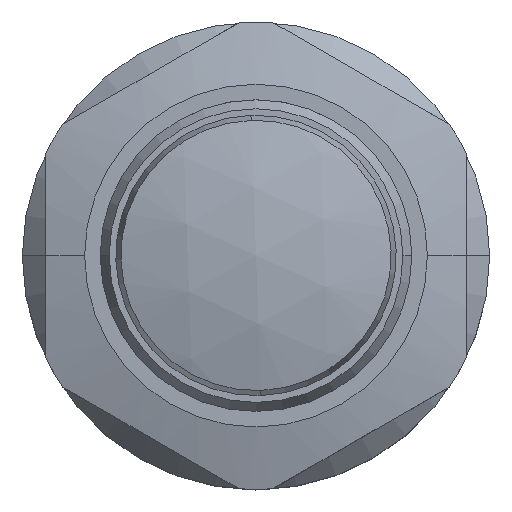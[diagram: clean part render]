
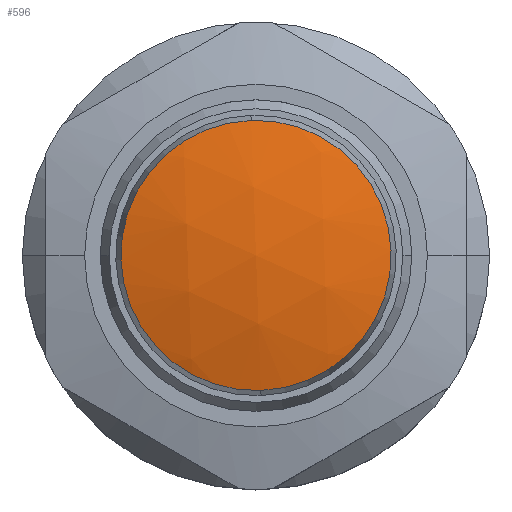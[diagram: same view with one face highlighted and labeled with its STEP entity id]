
A CAD part, top view. The second image highlights one B-rep face of the part: STEP entity #596.
In plain terms, the highlighted spherical face has radius 30 mm.
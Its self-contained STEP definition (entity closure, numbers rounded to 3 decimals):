
#83 = CARTESIAN_POINT ( 'NONE',  ( 0., 0., 11. ) ) ;
#88 = CARTESIAN_POINT ( 'NONE',  ( -8.673, 0., 9.719 ) ) ;
#91 = CARTESIAN_POINT ( 'NONE',  ( 8.673, 0., 9.719 ) ) ;
#95 = CARTESIAN_POINT ( 'NONE',  ( -8.673, 0., 9.719 ) ) ;
#578 = EDGE_CURVE ( 'NONE', #1467, #1466, #2014, .T. ) ;
#583 = EDGE_CURVE ( 'NONE', #1466, #1462, #2032, .T. ) ;
#585 = EDGE_CURVE ( 'NONE', #1466, #1467, #2036, .T. ) ;
#590 = EDGE_CURVE ( 'NONE', #1472, #1462, #2048, .T. ) ;
#596 = ADVANCED_FACE ( 'NONE', ( #947 ), #948, .T. ) ;
#943 = CARTESIAN_POINT ( 'NONE',  ( 0., 0., -19. ) ) ;
#947 = FACE_OUTER_BOUND ( 'NONE', #1554, .T. ) ;
#948 = SPHERICAL_SURFACE ( 'NONE', #2057, 30. ) ;
#950 = DIRECTION ( 'NONE',  ( 0., 1., 0. ) ) ;
#951 = DIRECTION ( 'NONE',  ( 1., 0., 0. ) ) ;
#1446 = ORIENTED_EDGE ( 'NONE', *, *, #583, .F. ) ;
#1447 = ORIENTED_EDGE ( 'NONE', *, *, #590, .T. ) ;
#1448 = ORIENTED_EDGE ( 'NONE', *, *, #590, .F. ) ;
#1449 = ORIENTED_EDGE ( 'NONE', *, *, #583, .T. ) ;
#1450 = ORIENTED_EDGE ( 'NONE', *, *, #578, .T. ) ;
#1451 = ORIENTED_EDGE ( 'NONE', *, *, #585, .T. ) ;
#1462 = VERTEX_POINT ( 'NONE', #83 ) ;
#1466 = VERTEX_POINT ( 'NONE', #91 ) ;
#1467 = VERTEX_POINT ( 'NONE', #88 ) ;
#1472 = VERTEX_POINT ( 'NONE', #95 ) ;
#1554 = EDGE_LOOP ( 'NONE', ( #1451, #1450, #1449, #1448, #1447, #1446 ) ) ;
#1599 = CARTESIAN_POINT ( 'NONE',  ( 0., 0., 9.719 ) ) ;
#1600 = DIRECTION ( 'NONE',  ( 0., 0., 1. ) ) ;
#1601 = DIRECTION ( 'NONE',  ( 1., 0., 0. ) ) ;
#1612 = CARTESIAN_POINT ( 'NONE',  ( 0., 0., -19. ) ) ;
#1613 = DIRECTION ( 'NONE',  ( 0., -1., 0. ) ) ;
#1614 = DIRECTION ( 'NONE',  ( 0., 0., -1. ) ) ;
#1620 = CARTESIAN_POINT ( 'NONE',  ( 0., 0., 9.719 ) ) ;
#1621 = DIRECTION ( 'NONE',  ( 0., 0., 1. ) ) ;
#1622 = DIRECTION ( 'NONE',  ( 1., 0., 0. ) ) ;
#1634 = CARTESIAN_POINT ( 'NONE',  ( 0., 0., -19. ) ) ;
#1635 = DIRECTION ( 'NONE',  ( 0., 1., 0. ) ) ;
#1636 = DIRECTION ( 'NONE',  ( -1., 0., 0. ) ) ;
#2014 = CIRCLE ( 'NONE', #2030, 8.673 ) ;
#2030 = AXIS2_PLACEMENT_3D ( 'NONE', #1599, #1600, #1601 ) ;
#2032 = CIRCLE ( 'NONE', #2038, 30. ) ;
#2036 = CIRCLE ( 'NONE', #2042, 8.673 ) ;
#2038 = AXIS2_PLACEMENT_3D ( 'NONE', #1612, #1613, #1614 ) ;
#2042 = AXIS2_PLACEMENT_3D ( 'NONE', #1620, #1621, #1622 ) ;
#2048 = CIRCLE ( 'NONE', #2050, 30. ) ;
#2050 = AXIS2_PLACEMENT_3D ( 'NONE', #1634, #1635, #1636 ) ;
#2057 = AXIS2_PLACEMENT_3D ( 'NONE', #943, #950, #951 ) ;
